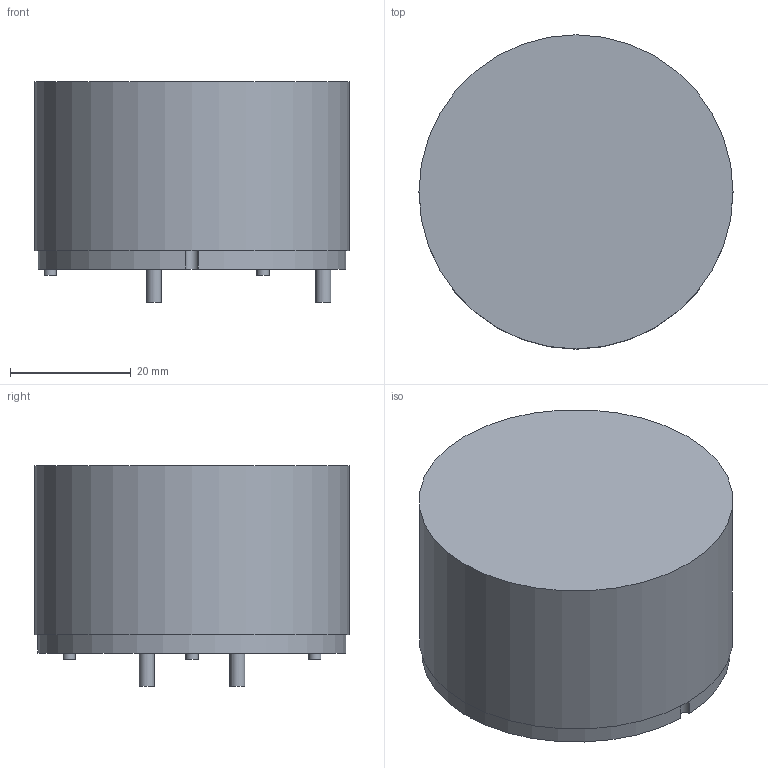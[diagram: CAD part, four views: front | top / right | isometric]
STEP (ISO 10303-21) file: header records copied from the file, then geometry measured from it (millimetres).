
FILE_DESCRIPTION(/* description */ (''),/* implementation_level */ '2;1');
FILE_NAME(/* name */ 'F:\Done\2016\产品3D模拟 新型号\修改针径\新建文件夹\6123-X241\6123-X241 3D Model.stp',/* time_stamp */ '2016-07-12T11:55:49+08:00',/* author */ ('CN000562'),/* organization */ (''),/* preprocessor_version */ 'ST-DEVELOPER v16.5',/* originating_system */ 'Autodesk Inventor 2017',/* authorisation */ '');
FILE_SCHEMA (('AUTOMOTIVE_DESIGN { 1 0 10303 214 3 1 1 }'));
Length unit declared in the file: millimetre
Products named in the file (1): 6123-X316
Bounding box: 52 x 52 x 36.5 mm (x, y, z)
Volume: 65702.9 mm3; surface area: 9504.9 mm2
Topology: 1 solids, 1 shells, 22 faces, 34 edges, 22 vertices
Faces by surface type: cylinder 11, plane 11
Full cylindrical faces by diameter (mm): 2 x3, 2.5 x4, 52 x1
Entity records: 494 total; most frequent: DIRECTION 94, CARTESIAN_POINT 71, ORIENTED_EDGE 52, AXIS2_PLACEMENT_3D 45, EDGE_LOOP 38, EDGE_CURVE 26, FACE_OUTER_BOUND 22, CIRCLE 22
